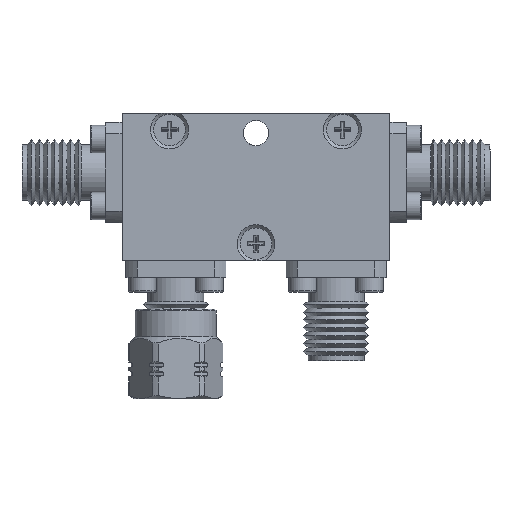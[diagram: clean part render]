
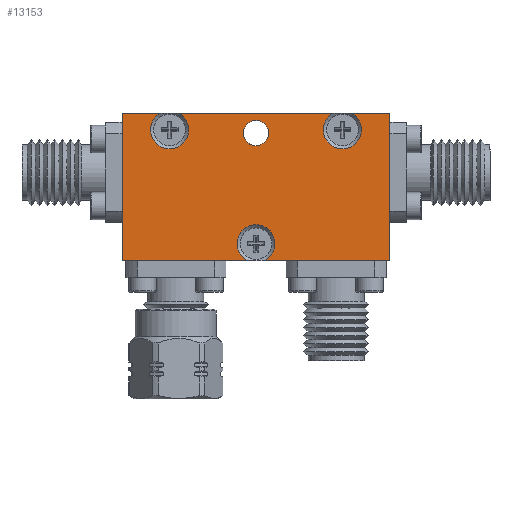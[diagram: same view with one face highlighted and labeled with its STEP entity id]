
A CAD part, top view. The second image highlights one B-rep face of the part: STEP entity #13153.
In plain terms, the highlighted planar face has unit normal (0, 0, 1).
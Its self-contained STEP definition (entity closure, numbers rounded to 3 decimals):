
#601=LINE('',#17185,#1076);
#605=LINE('',#17194,#1080);
#615=LINE('',#17241,#1090);
#618=LINE('',#17246,#1093);
#622=LINE('',#17263,#1097);
#625=LINE('',#17268,#1100);
#629=LINE('',#17289,#1104);
#630=LINE('',#17297,#1105);
#631=LINE('',#17305,#1106);
#693=LINE('',#17675,#1168);
#755=LINE('',#18044,#1230);
#1076=VECTOR('',#14529,1000.);
#1080=VECTOR('',#14533,1000.);
#1090=VECTOR('',#14565,1000.);
#1093=VECTOR('',#14568,1000.);
#1097=VECTOR('',#14582,1000.);
#1100=VECTOR('',#14585,1000.);
#1104=VECTOR('',#14609,1000.);
#1105=VECTOR('',#14610,1000.);
#1106=VECTOR('',#14611,1000.);
#1168=VECTOR('',#14903,1000.);
#1230=VECTOR('',#15193,1000.);
#3039=ORIENTED_EDGE('',*,*,#3855,.F.);
#3040=ORIENTED_EDGE('',*,*,#4610,.T.);
#3041=ORIENTED_EDGE('',*,*,#3859,.F.);
#3042=ORIENTED_EDGE('',*,*,#3880,.F.);
#3043=ORIENTED_EDGE('',*,*,#4035,.F.);
#3044=ORIENTED_EDGE('',*,*,#3883,.F.);
#3045=ORIENTED_EDGE('',*,*,#3908,.F.);
#3046=ORIENTED_EDGE('',*,*,#4611,.T.);
#3047=ORIENTED_EDGE('',*,*,#3906,.F.);
#3048=ORIENTED_EDGE('',*,*,#4612,.T.);
#3049=ORIENTED_EDGE('',*,*,#3904,.F.);
#3050=ORIENTED_EDGE('',*,*,#3891,.F.);
#3051=ORIENTED_EDGE('',*,*,#4162,.F.);
#3052=ORIENTED_EDGE('',*,*,#3894,.F.);
#3053=ORIENTED_EDGE('',*,*,#4613,.F.);
#3855=EDGE_CURVE('',#5006,#5007,#601,.T.);
#3859=EDGE_CURVE('',#5010,#5011,#605,.T.);
#3880=EDGE_CURVE('',#5031,#5010,#615,.T.);
#3883=EDGE_CURVE('',#5033,#5034,#618,.T.);
#3891=EDGE_CURVE('',#5041,#5042,#622,.T.);
#3894=EDGE_CURVE('',#5007,#5044,#625,.T.);
#3904=EDGE_CURVE('',#5042,#5051,#629,.T.);
#3906=EDGE_CURVE('',#5052,#5053,#630,.T.);
#3908=EDGE_CURVE('',#5054,#5033,#631,.T.);
#4035=EDGE_CURVE('',#5034,#5031,#693,.T.);
#4162=EDGE_CURVE('',#5044,#5041,#755,.T.);
#4610=EDGE_CURVE('',#5006,#5011,#6139,.T.);
#4611=EDGE_CURVE('',#5054,#5053,#6140,.T.);
#4612=EDGE_CURVE('',#5052,#5051,#6141,.T.);
#4613=EDGE_CURVE('',#5574,#5574,#6142,.T.);
#5006=VERTEX_POINT('',#17186);
#5007=VERTEX_POINT('',#17187);
#5010=VERTEX_POINT('',#17193);
#5011=VERTEX_POINT('',#17195);
#5031=VERTEX_POINT('',#17240);
#5033=VERTEX_POINT('',#17245);
#5034=VERTEX_POINT('',#17247);
#5041=VERTEX_POINT('',#17262);
#5042=VERTEX_POINT('',#17264);
#5044=VERTEX_POINT('',#17269);
#5051=VERTEX_POINT('',#17290);
#5052=VERTEX_POINT('',#17296);
#5053=VERTEX_POINT('',#17298);
#5054=VERTEX_POINT('',#17304);
#5574=VERTEX_POINT('',#19388);
#6139=CIRCLE('',#14047,1.8);
#6140=CIRCLE('',#14048,1.8);
#6141=CIRCLE('',#14049,1.8);
#6142=CIRCLE('',#14050,1.2);
#6896=EDGE_LOOP('',(#3039,#3040,#3041,#3042,#3043,#3044,#3045,#3046,#3047,
#3048,#3049,#3050,#3051,#3052));
#6897=EDGE_LOOP('',(#3053));
#7827=FACE_BOUND('',#6896,.T.);
#7828=FACE_BOUND('',#6897,.T.);
#8396=PLANE('',#14046);
#13153=ADVANCED_FACE('',(#7827,#7828),#8396,.F.);
#14046=AXIS2_PLACEMENT_3D('',#19383,#16096,#16097);
#14047=AXIS2_PLACEMENT_3D('',#19384,#16098,#16099);
#14048=AXIS2_PLACEMENT_3D('',#19385,#16100,#16101);
#14049=AXIS2_PLACEMENT_3D('',#19386,#16102,#16103);
#14050=AXIS2_PLACEMENT_3D('',#19387,#16104,#16105);
#14529=DIRECTION('',(-1.,0.,0.));
#14533=DIRECTION('',(-1.,0.,0.));
#14565=DIRECTION('',(0.,-1.,0.));
#14568=DIRECTION('',(0.,-1.,0.));
#14582=DIRECTION('',(0.,1.,0.));
#14585=DIRECTION('',(0.,1.,0.));
#14609=DIRECTION('',(1.,0.,0.));
#14610=DIRECTION('',(1.,0.,0.));
#14611=DIRECTION('',(1.,0.,0.));
#14903=DIRECTION('',(0.,-1.,0.));
#15193=DIRECTION('',(0.,1.,0.));
#16096=DIRECTION('',(0.,0.,-1.));
#16097=DIRECTION('',(-1.,0.,0.));
#16098=DIRECTION('',(0.,0.,-1.));
#16099=DIRECTION('',(0.,1.,0.));
#16100=DIRECTION('',(0.,0.,-1.));
#16101=DIRECTION('',(0.,1.,0.));
#16102=DIRECTION('',(0.,0.,-1.));
#16103=DIRECTION('',(0.,1.,0.));
#16104=DIRECTION('',(0.,0.,1.));
#16105=DIRECTION('',(-1.,0.,0.));
#17185=CARTESIAN_POINT('',(12.7,-7.,9.65));
#17186=CARTESIAN_POINT('',(-0.825,-7.,9.65));
#17187=CARTESIAN_POINT('',(-12.7,-7.,9.65));
#17193=CARTESIAN_POINT('',(12.7,-7.,9.65));
#17194=CARTESIAN_POINT('',(12.7,-7.,9.65));
#17195=CARTESIAN_POINT('',(0.825,-7.,9.65));
#17240=CARTESIAN_POINT('',(12.7,-2.527,9.65));
#17241=CARTESIAN_POINT('',(12.7,7.,9.65));
#17245=CARTESIAN_POINT('',(12.7,7.,9.65));
#17246=CARTESIAN_POINT('',(12.7,7.,9.65));
#17247=CARTESIAN_POINT('',(12.7,5.237,9.65));
#17262=CARTESIAN_POINT('',(-12.7,5.237,9.65));
#17263=CARTESIAN_POINT('',(-12.7,-7.,9.65));
#17264=CARTESIAN_POINT('',(-12.7,7.,9.65));
#17268=CARTESIAN_POINT('',(-12.7,-7.,9.65));
#17269=CARTESIAN_POINT('',(-12.7,-2.527,9.65));
#17289=CARTESIAN_POINT('',(-12.7,7.,9.65));
#17290=CARTESIAN_POINT('',(-9.025,7.,9.65));
#17296=CARTESIAN_POINT('',(-7.375,7.,9.65));
#17297=CARTESIAN_POINT('',(-12.7,7.,9.65));
#17298=CARTESIAN_POINT('',(7.375,7.,9.65));
#17304=CARTESIAN_POINT('',(9.025,7.,9.65));
#17305=CARTESIAN_POINT('',(-12.7,7.,9.65));
#17675=CARTESIAN_POINT('',(12.7,7.,9.65));
#18044=CARTESIAN_POINT('',(-12.7,-7.,9.65));
#19383=CARTESIAN_POINT('',(0.,0.,9.65));
#19384=CARTESIAN_POINT('',(0.,-5.4,9.65));
#19385=CARTESIAN_POINT('',(8.2,5.4,9.65));
#19386=CARTESIAN_POINT('',(-8.2,5.4,9.65));
#19387=CARTESIAN_POINT('',(0.,5.1,9.65));
#19388=CARTESIAN_POINT('',(-1.2,5.1,9.65));
